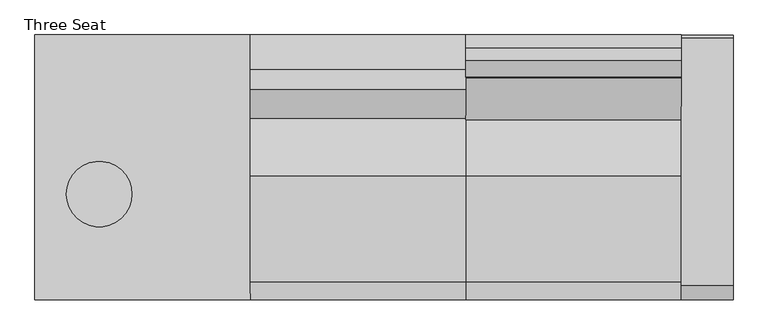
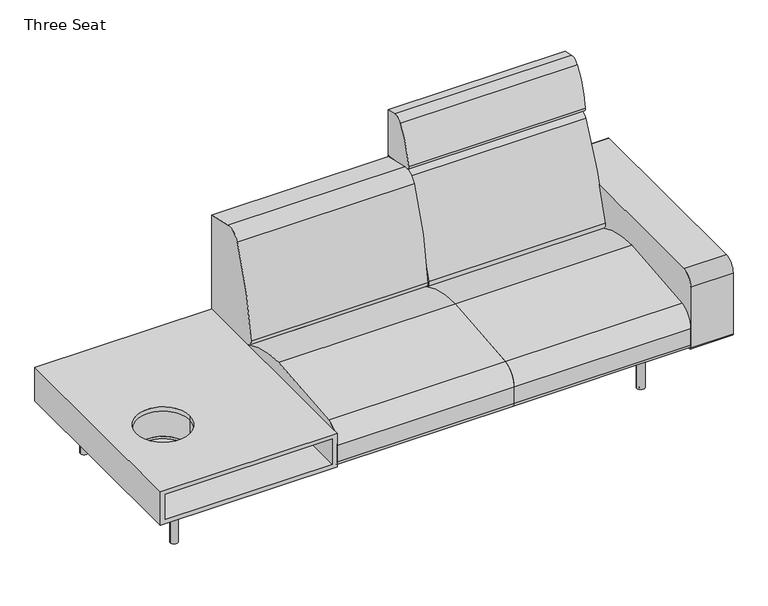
"""IFC4 building model written with IfcOpenShell, lengths in millimetres: furniture geometry, Coalesse_AM_Seating_LoungeChair_Sistema_LegBase_ThreeSeat : Three Seat."""

from ifc_helpers import new_model, si_unit, point, frame, frame_2d, origin, origin_with_axes, place, context, project, spatial, polyline, circle_curve, trimmed, segment, composite_curve, outline, extrude, source, transform, mapped, element, save
from ifc_brep_helpers import plane_surface, revolved_surface, advanced_brep


def three_seat_159c2a03(model_context):
    return source(origin(), model_context, "Body", "SolidModel", [
        advanced_brep(
        [(-353.0071698, -461.2704381, 336.5211742), (-353.0071698, -461.2704381, 223.173587), (-353.0071698, 459.4795619, 223.173587), (-353.0071698, 459.4795619, 336.5211742), (353.6069667, -461.2704381, 336.5211742), (353.6069667, 459.4795619, 336.5211742), (-37.7047777, -93.7879891, 336.5211742), (-265.0667966, -93.7879891, 336.5211742), (374.4965227, -461.2704381, 354.7774), (-374.8034773, -461.2704381, 354.7774), (-374.8034773, -461.2704381, 204.47), (374.4965227, -461.2704381, 204.47), (353.6069667, -461.2704381, 223.173587), (374.4965227, 459.4795619, 354.7774), (374.4965227, 459.4795619, 204.47), (-374.8034773, 459.4795619, 204.47), (-374.8034773, 459.4795619, 354.7774), (353.6069667, 459.4795619, 223.173587), (-265.0667966, -93.7879891, 354.7774), (-37.7047777, -93.7879891, 354.7774), (-265.0667966, -93.7879891, 223.173587), (-37.7047777, -93.7879891, 223.173587), (-265.0667966, -93.7879891, 212.4123377), (-37.7047777, -93.7879891, 212.4123377)],
        [
            (0, 1),
            (1, 2),
            (2, 3),
            (3, 0),
            (4, 0),
            (3, 5),
            (5, 4),
            (6, 7, circle_curve(frame((-151.3857872, -93.7879891, 336.5211742), z_axis=(0.0, 0.0, 1.0), x_axis=(1.0, 0.0, 0.0)), 113.6810095)),
            (7, 6, circle_curve(frame((-151.3857872, -93.7879891, 336.5211742), z_axis=(0.0, 0.0, 1.0), x_axis=(1.0, 0.0, 0.0)), 113.6810095)),
            (8, 9),
            (9, 10),
            (10, 11),
            (11, 8),
            (4, 12),
            (12, 1),
            (13, 14),
            (14, 15),
            (15, 16),
            (16, 13),
            (2, 17),
            (17, 5),
            (8, 13),
            (16, 9),
            (18, 19, circle_curve(frame((-151.3857872, -93.7879891, 354.7774), z_axis=(0.0, 0.0, -1.0), x_axis=(1.0, 0.0, 0.0)), 113.6810095)),
            (19, 18, circle_curve(frame((-151.3857872, -93.7879891, 354.7774), z_axis=(0.0, 0.0, -1.0), x_axis=(1.0, 0.0, 0.0)), 113.6810095)),
            (15, 10),
            (14, 11),
            (17, 12),
            (20, 21, circle_curve(frame((-151.3857872, -93.7879891, 223.173587), z_axis=(0.0, 0.0, -1.0), x_axis=(1.0, 0.0, 0.0)), 113.6810095)),
            (21, 20, circle_curve(frame((-151.3857872, -93.7879891, 223.173587), z_axis=(0.0, 0.0, -1.0), x_axis=(1.0, 0.0, 0.0)), 113.6810095)),
            (22, 23, circle_curve(frame((-151.3857872, -93.7879891, 212.4123377), z_axis=(0.0, 0.0, 1.0), x_axis=(1.0, 0.0, 0.0)), 113.6810095)),
            (23, 22, circle_curve(frame((-151.3857872, -93.7879891, 212.4123377), z_axis=(0.0, 0.0, 1.0), x_axis=(1.0, 0.0, 0.0)), 113.6810095)),
            (23, 21),
            (20, 22),
            (18, 7),
            (6, 19),
        ],
        [
            plane_surface(frame((-353.0071698, -461.2704381, 223.173587), z_axis=(1.0, 0.0, 0.0), x_axis=(0.0, 1.0, 0.0))),
            plane_surface(frame((-353.0071698, -461.2704381, 336.5211742), z_axis=(0.0, 0.0, -1.0), x_axis=(0.0, 1.0, 0.0))),
            plane_surface(frame((-371.2653576, -461.2704381, 354.7774), z_axis=(0.0, -1.0, 0.0), x_axis=(-1.0, 0.0, 0.0))),
            plane_surface(frame((-371.2653576, 459.4795619, 354.7774), z_axis=(0.0, 1.0, 0.0), x_axis=(1.0, 0.0, 0.0))),
            plane_surface(frame((374.4965227, -461.2704381, 354.7774), z_axis=(0.0, 0.0, 1.0), x_axis=(0.0, 1.0, 0.0))),
            plane_surface(frame((-374.8034773, -461.2704381, 354.7774), z_axis=(-1.0, 0.0, 0.0), x_axis=(0.0, 1.0, 0.0))),
            plane_surface(frame((-374.8034773, -461.2704381, 204.47), z_axis=(0.0, 0.0, -1.0), x_axis=(0.0, 1.0, 0.0))),
            plane_surface(frame((374.4965227, -461.2704381, 204.47), z_axis=(1.0, 0.0, 0.0), x_axis=(0.0, 1.0, 0.0))),
            plane_surface(frame((353.6069667, -461.2704381, 336.5211742), z_axis=(-1.0, 0.0, 0.0), x_axis=(0.0, 1.0, 0.0))),
            plane_surface(frame((353.6069667, -461.2704381, 223.173587), z_axis=(0.0, 0.0, 1.0), x_axis=(0.0, 1.0, 0.0))),
            plane_surface(frame((-37.7047777, -93.7879891, 212.4123377), z_axis=(0.0, 0.0, 1.0), x_axis=(0.0, -1.0, 0.0))),
            revolved_surface(polyline([(-37.70477770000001, -93.7879891, 212.4123377), (-37.70477770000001, -93.7879891, 223.173587)]), (-151.3857872, -93.7879891, 446.6108932), (0.0, 0.0, -1.0)),
            revolved_surface(polyline([(-37.70477770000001, -93.7879891, 336.5211742), (-37.70477770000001, -93.7879891, 354.7774)]), (-151.3857872, -93.7879891, 446.6108932), (0.0, 0.0, -1.0)),
        ],
        [
            (0, [[1, 2, 3, 4]]),
            (1, [[5, -4, 6, 7], [8, 9]]),
            (2, [[10, 11, 12, 13], [14, 15, -1, -5]]),
            (3, [[16, 17, 18, 19], [-6, -3, 20, 21]]),
            (4, [[-10, 22, -19, 23], [24, 25]]),
            (5, [[-11, -23, -18, 26]]),
            (6, [[-12, -26, -17, 27]]),
            (7, [[-13, -27, -16, -22]]),
            (8, [[-14, -7, -21, 28]]),
            (9, [[-15, -28, -20, -2], [29, 30]]),
            (10, [[31, 32]]),
            (11, [[-32, 33, -29, 34]]),
            (12, [[35, -8, 36, -24]]),
            (12, [[-35, -25, -36, -9]]),
            (11, [[-31, -34, -30, -33]]),
        ],
    ),
        extrude(outline(composite_curve([segment(trimmed(circle_curve(frame_2d((-151.3857872, -93.7879891)), 127.924967), [point((-279.3107542, -93.7879891))], [point((-23.4608201, -93.7879891))], False, "CARTESIAN"), True, "CONTINUOUS"), segment(trimmed(circle_curve(frame_2d((-151.3857872, -93.7879891)), 127.924967), [point((-23.4608201, -93.7879891))], [point((-279.3107542, -93.7879891))], False, "CARTESIAN"), True, "CONTINUOUS")], self_intersect=False), holes=[composite_curve([segment(trimmed(circle_curve(frame_2d((-151.3857872, -93.7879891)), 113.6810095), [point((-265.0667966, -93.7879891))], [point((-37.7047777, -93.7879891))], True, "CARTESIAN"), True, "CONTINUOUS"), segment(trimmed(circle_curve(frame_2d((-151.3857872, -93.7879891)), 113.6810095), [point((-37.7047777, -93.7879891))], [point((-265.0667966, -93.7879891))], True, "CARTESIAN"), True, "CONTINUOUS")], self_intersect=False)]), frame((0.0, 0.0, 212.4123377), z_axis=(0.0, 0.0, 1.0), x_axis=(1.0, 0.0, 0.0)), (0.0, 0.0, 1.0), 124.1087275),
        extrude(outline(composite_curve([segment(polyline([(459.4795619, 775.8234697), (459.4795619, 228.1929806)]), True, "CONTINUOUS"), segment(trimmed(circle_curve(frame_2d((191.495971, 228.1929806)), 267.983591), [point((459.4795619, 228.1929806))], [point((458.9860775, 211.937276))], False, "CARTESIAN"), True, "CONTINUOUS"), segment(polyline([(458.9860775, 211.937276), (183.8457951, 360.6719742)]), True, "CONTINUOUS"), segment(trimmed(circle_curve(frame_2d((195.9245701, 383.0161724)), 25.4), [point((183.8457951, 360.6719742))], [point((170.6161698, 385.1713698))], False, "CARTESIAN"), True, "CONTINUOUS"), segment(trimmed(circle_curve(frame_2d((1327.5544182, 286.6495247)), 1161.1256023), [point((170.6161698, 385.1713698))], [point((271.1088001, 768.4537592))], False, "CARTESIAN"), True, "CONTINUOUS"), segment(trimmed(circle_curve(frame_2d((326.5730192, 743.158661)), 60.96), [point((271.1088001, 768.4537592))], [point((339.9143278, 802.6408523))], False, "CARTESIAN"), True, "CONTINUOUS"), segment(polyline([(339.9143278, 802.6408523), (459.4795619, 775.8234697)]), True, "CONTINUOUS")], self_intersect=False)), frame((374.4965227, 0.0, 0.0), z_axis=(1.0, 0.0, 0.0), x_axis=(0.0, 1.0, 0.0)), (0.0, 0.0, 1.0), 749.3),
        extrude(outline(composite_curve([segment(trimmed(circle_curve(frame_2d((-438.9184381, 226.822)), 22.352), [point((-438.9184381, 204.47))], [point((-461.2704381, 226.822))], False, "CARTESIAN"), True, "CONTINUOUS"), segment(polyline([(-461.2704381, 226.822), (-461.2704381, 301.4421993)]), True, "CONTINUOUS"), segment(trimmed(circle_curve(frame_2d((-385.0704381, 301.4421993)), 76.2), [point((-461.2704381, 301.4421993))], [point((-398.9277015, 376.3716077))], False, "CARTESIAN"), True, "CONTINUOUS"), segment(trimmed(circle_curve(frame_2d((2.2103559, -1792.6740646)), 2205.8265729), [point((-398.9277015, 376.3716077))], [point((-31.1968175, 412.8995185))], False, "CARTESIAN"), True, "CONTINUOUS"), segment(trimmed(circle_curve(frame_2d((-24.5128424, -28.3829182)), 441.333054), [point((-31.1968175, 412.8995185))], [point((184.5757008, 360.2774035))], False, "CARTESIAN"), True, "CONTINUOUS"), segment(polyline([(184.5757008, 360.2774035), (458.9860775, 211.937276)]), True, "CONTINUOUS"), segment(trimmed(circle_curve(frame_2d((442.3266309, 226.7871991)), 22.3171991), [point((458.9860775, 211.937276))], [point((442.3266309, 204.47))], False, "CARTESIAN"), True, "CONTINUOUS"), segment(polyline([(442.3266309, 204.47), (-438.9184381, 204.47)]), True, "CONTINUOUS")], self_intersect=False)), frame((374.4965227, 0.0, 0.0), z_axis=(1.0, 0.0, 0.0), x_axis=(0.0, 1.0, 0.0)), (0.0, 0.0, 1.0), 749.3),
        extrude(outline(composite_curve([segment(polyline([(-461.2704381, 212.4103341), (-461.2704381, 487.0244726)]), True, "CONTINUOUS"), segment(trimmed(circle_curve(frame_2d((-410.4704381, 487.0244726)), 50.8), [point((-461.2704381, 487.0244726))], [point((-410.4704381, 537.8244726))], False, "CARTESIAN"), True, "CONTINUOUS"), segment(polyline([(-410.4704381, 537.8244726), (450.1139321, 537.8244726)]), True, "CONTINUOUS"), segment(trimmed(circle_curve(frame_2d((450.1139321, 530.2044726)), 7.62), [point((450.1139321, 537.8244726))], [point((457.7339321, 530.2044726))], False, "CARTESIAN"), True, "CONTINUOUS"), segment(polyline([(457.7339321, 530.2044726), (457.7339321, 217.4903341)]), True, "CONTINUOUS"), segment(trimmed(circle_curve(frame_2d((445.0339321, 217.4903341)), 12.7), [point((457.7339321, 217.4903341))], [point((445.0339321, 204.7903341))], False, "CARTESIAN"), True, "CONTINUOUS"), segment(polyline([(445.0339321, 204.7903341), (-453.6504381, 204.7903341)]), True, "CONTINUOUS"), segment(trimmed(circle_curve(frame_2d((-453.6504381, 212.4103341)), 7.62), [point((-453.6504381, 204.7903341))], [point((-461.2704381, 212.4103341))], False, "CARTESIAN"), True, "CONTINUOUS")], self_intersect=False)), frame((1873.0965227, 0.0, 0.0), z_axis=(1.0, 0.0, 0.0), x_axis=(0.0, 1.0, 0.0)), (0.0, 0.0, 1.0), 179.5663651),
        extrude(outline(composite_curve([segment(polyline([(459.4795619, 985.4592709), (459.4795619, 780.845009), (327.9700683, 799.327463)]), True, "CONTINUOUS"), segment(trimmed(circle_curve(frame_2d((330.6213159, 818.1920697)), 19.05), [point((327.9700683, 799.327463))], [point((311.7521971, 820.8110119))], False, "CARTESIAN"), True, "CONTINUOUS"), segment(trimmed(circle_curve(frame_2d((679.5815991, 769.7580741)), 371.3554516), [point((311.7521971, 820.8110119))], [point((372.1246101, 978.0249014))], False, "CARTESIAN"), True, "CONTINUOUS"), segment(trimmed(circle_curve(frame_2d((405.8944569, 955.1497055)), 40.7881985), [point((372.1246101, 978.0249014))], [point((414.3748002, 995.046584))], False, "CARTESIAN"), True, "CONTINUOUS"), segment(polyline([(414.3748002, 995.046584), (459.4795619, 985.4592709)]), True, "CONTINUOUS")], self_intersect=False)), frame((1123.7965227, 0.0, 0.0), z_axis=(1.0, 0.0, 0.0), x_axis=(0.0, 1.0, 0.0)), (0.0, 0.0, 1.0), 749.3),
        extrude(outline(composite_curve([segment(polyline([(459.4795619, 780.845009), (459.4795619, 228.1929806)]), True, "CONTINUOUS"), segment(trimmed(circle_curve(frame_2d((191.495971, 228.1929806)), 267.983591), [point((459.4795619, 228.1929806))], [point((458.9860775, 211.937276))], False, "CARTESIAN"), True, "CONTINUOUS"), segment(polyline([(458.9860775, 211.937276), (177.4990556, 364.1028799)]), True, "CONTINUOUS"), segment(trimmed(circle_curve(frame_2d((189.5778307, 386.4470781)), 25.4), [point((177.4990556, 364.1028799))], [point((164.9600055, 392.7018911))], False, "CARTESIAN"), True, "CONTINUOUS"), segment(trimmed(circle_curve(frame_2d((1918.112812, -52.7331923)), 1808.8552115), [point((164.9600055, 392.7018911))], [point((310.2880264, 776.0349508))], False, "CARTESIAN"), True, "CONTINUOUS"), segment(trimmed(circle_curve(frame_2d((344.1537133, 758.5785695)), 38.1), [point((310.2880264, 776.0349508))], [point((349.4562085, 796.3077829))], False, "CARTESIAN"), True, "CONTINUOUS"), segment(polyline([(349.4562085, 796.3077829), (459.4795619, 780.845009)]), True, "CONTINUOUS")], self_intersect=False)), frame((1123.7965227, 0.0, 0.0), z_axis=(1.0, 0.0, 0.0), x_axis=(0.0, 1.0, 0.0)), (0.0, 0.0, 1.0), 749.3),
        extrude(outline(composite_curve([segment(trimmed(circle_curve(frame_2d((-438.9184381, 226.822)), 22.352), [point((-438.9184381, 204.47))], [point((-461.2704381, 226.822))], False, "CARTESIAN"), True, "CONTINUOUS"), segment(polyline([(-461.2704381, 226.822), (-461.2704381, 301.4421993)]), True, "CONTINUOUS"), segment(trimmed(circle_curve(frame_2d((-385.0704381, 301.4421993)), 76.2), [point((-461.2704381, 301.4421993))], [point((-398.9277015, 376.3716077))], False, "CARTESIAN"), True, "CONTINUOUS"), segment(trimmed(circle_curve(frame_2d((2.2103559, -1792.6740646)), 2205.8265729), [point((-398.9277015, 376.3716077))], [point((-31.1968175, 412.8995185))], False, "CARTESIAN"), True, "CONTINUOUS"), segment(trimmed(circle_curve(frame_2d((-24.5128424, -28.3829182)), 441.333054), [point((-31.1968175, 412.8995185))], [point((184.5757008, 360.2774035))], False, "CARTESIAN"), True, "CONTINUOUS"), segment(polyline([(184.5757008, 360.2774035), (458.9860775, 211.937276)]), True, "CONTINUOUS"), segment(trimmed(circle_curve(frame_2d((442.3266309, 226.7871991)), 22.3171991), [point((458.9860775, 211.937276))], [point((442.3266309, 204.47))], False, "CARTESIAN"), True, "CONTINUOUS"), segment(polyline([(442.3266309, 204.47), (-438.9184381, 204.47)]), True, "CONTINUOUS")], self_intersect=False)), frame((1123.7965227, 0.0, 0.0), z_axis=(1.0, 0.0, 0.0), x_axis=(0.0, 1.0, 0.0)), (0.0, 0.0, 1.0), 749.3),
        extrude(outline(composite_curve([segment(trimmed(circle_curve(frame_2d((1738.4765227, 335.9943389)), 6.096), [point((1744.5725227, 335.9943389))], [point((1732.3805227, 335.9943389))], False, "CARTESIAN"), True, "CONTINUOUS"), segment(trimmed(circle_curve(frame_2d((1738.4765227, 335.9943389)), 6.096), [point((1732.3805227, 335.9943389))], [point((1744.5725227, 335.9943389))], False, "CARTESIAN"), True, "CONTINUOUS")], self_intersect=False)), origin_with_axes(), (0.0, 0.0, 1.0), 4.3662291),
        extrude(outline(composite_curve([segment(trimmed(circle_curve(frame_2d((1738.4765227, -327.2630889)), 6.096), [point((1744.5725227, -327.2630889))], [point((1732.3805227, -327.2630889))], False, "CARTESIAN"), True, "CONTINUOUS"), segment(trimmed(circle_curve(frame_2d((1738.4765227, -327.2630889)), 6.096), [point((1732.3805227, -327.2630889))], [point((1744.5725227, -327.2630889))], False, "CARTESIAN"), True, "CONTINUOUS")], self_intersect=False)), origin_with_axes(), (0.0, 0.0, 1.0), 4.3662291),
        extrude(outline(composite_curve([segment(polyline([(157.0399209, 1751.056375), (201.7356243, 1751.056375)]), True, "CONTINUOUS"), segment(trimmed(circle_curve(frame_2d((201.7356243, 1748.008375)), 3.048), [point((201.7356243, 1751.056375))], [point((204.7836243, 1748.008375))], False, "CARTESIAN"), True, "CONTINUOUS"), segment(polyline([(204.7836243, 1748.008375), (204.7836243, 1728.666199)]), True, "CONTINUOUS"), segment(trimmed(circle_curve(frame_2d((201.7356243, 1728.666199)), 3.048), [point((204.7836243, 1728.666199))], [point((201.7356243, 1725.618199))], False, "CARTESIAN"), True, "CONTINUOUS"), segment(polyline([(201.7356243, 1725.618199), (157.1249936, 1725.618199)]), True, "CONTINUOUS"), segment(trimmed(circle_curve(frame_2d((157.1249936, 1728.7512718)), 3.1330728), [point((157.1249936, 1725.618199))], [point((153.9919209, 1728.7512718))], False, "CARTESIAN"), True, "CONTINUOUS"), segment(polyline([(153.9919209, 1728.7512718), (153.9919209, 1748.008375)]), True, "CONTINUOUS"), segment(trimmed(circle_curve(frame_2d((157.0399209, 1748.008375)), 3.048), [point((153.9919209, 1748.008375))], [point((157.0399209, 1751.056375))], False, "CARTESIAN"), True, "CONTINUOUS")], self_intersect=False)), frame((0.0, 222.3519802, 0.0), z_axis=(0.0, 1.0, 0.0), x_axis=(0.0, 0.0, 1.0)), (0.0, 0.0, 1.0), 92.6273161),
        extrude(outline(composite_curve([segment(polyline([(157.0399209, 1751.056375), (201.7356243, 1751.056375)]), True, "CONTINUOUS"), segment(trimmed(circle_curve(frame_2d((201.7356243, 1748.008375)), 3.048), [point((201.7356243, 1751.056375))], [point((204.7836243, 1748.008375))], False, "CARTESIAN"), True, "CONTINUOUS"), segment(polyline([(204.7836243, 1748.008375), (204.7836243, 1728.666199)]), True, "CONTINUOUS"), segment(trimmed(circle_curve(frame_2d((201.7356243, 1728.666199)), 3.048), [point((204.7836243, 1728.666199))], [point((201.7356243, 1725.618199))], False, "CARTESIAN"), True, "CONTINUOUS"), segment(polyline([(201.7356243, 1725.618199), (157.1249936, 1725.618199)]), True, "CONTINUOUS"), segment(trimmed(circle_curve(frame_2d((157.1249936, 1728.7512718)), 3.1330728), [point((157.1249936, 1725.618199))], [point((153.9919209, 1728.7512718))], False, "CARTESIAN"), True, "CONTINUOUS"), segment(polyline([(153.9919209, 1728.7512718), (153.9919209, 1748.008375)]), True, "CONTINUOUS"), segment(trimmed(circle_curve(frame_2d((157.0399209, 1748.008375)), 3.048), [point((153.9919209, 1748.008375))], [point((157.0399209, 1751.056375))], False, "CARTESIAN"), True, "CONTINUOUS")], self_intersect=False)), frame((0.0, -314.9792963, 0.0), z_axis=(0.0, 1.0, 0.0), x_axis=(0.0, 0.0, 1.0)), (0.0, 0.0, 1.0), 92.6273161),
        extrude(outline(composite_curve([segment(trimmed(circle_curve(frame_2d((176.3356606, 1715.8259944)), 3.048), [point((179.3836606, 1715.8259944))], [point((176.3356606, 1712.7779944))], False, "CARTESIAN"), True, "CONTINUOUS"), segment(polyline([(176.3356606, 1712.7779944), (157.0399209, 1712.7779944)]), True, "CONTINUOUS"), segment(trimmed(circle_curve(frame_2d((157.0399209, 1715.8259944)), 3.048), [point((157.0399209, 1712.7779944))], [point((153.9919209, 1715.8259944))], False, "CARTESIAN"), True, "CONTINUOUS"), segment(polyline([(153.9919209, 1715.8259944), (153.9919209, 1760.5135501)]), True, "CONTINUOUS"), segment(trimmed(circle_curve(frame_2d((157.056462, 1760.5135501)), 3.0645412), [point((153.9919209, 1760.5135501))], [point((157.056462, 1763.5780913))], False, "CARTESIAN"), True, "CONTINUOUS"), segment(polyline([(157.056462, 1763.5780913), (176.3356606, 1763.5780913)]), True, "CONTINUOUS"), segment(trimmed(circle_curve(frame_2d((176.3356606, 1760.5300913)), 3.048), [point((176.3356606, 1763.5780913))], [point((179.3836606, 1760.5300913))], False, "CARTESIAN"), True, "CONTINUOUS"), segment(polyline([(179.3836606, 1760.5300913), (179.3836606, 1715.8259944)]), True, "CONTINUOUS")], self_intersect=False)), frame((0.0, -222.3519802, 0.0), z_axis=(0.0, 1.0, 0.0), x_axis=(0.0, 0.0, 1.0)), (0.0, 0.0, 1.0), 444.7039604),
        extrude(outline(composite_curve([segment(trimmed(circle_curve(frame_2d((1738.4765227, 332.3095741)), 16.51), [point((1754.9865227, 332.3095741))], [point((1721.9665227, 332.3095741))], False, "CARTESIAN"), True, "CONTINUOUS"), segment(trimmed(circle_curve(frame_2d((1738.4765227, 332.3095741)), 16.51), [point((1721.9665227, 332.3095741))], [point((1754.9865227, 332.3095741))], False, "CARTESIAN"), True, "CONTINUOUS")], self_intersect=False)), frame((0.0, 0.0, 4.3662291), z_axis=(0.0, 0.0, 1.0), x_axis=(1.0, 0.0, 0.0)), (0.0, 0.0, 1.0), 200.1037709),
        extrude(outline(composite_curve([segment(trimmed(circle_curve(frame_2d((1738.0796477, -327.5470741)), 16.51), [point((1754.5896477, -327.5470741))], [point((1721.5696477, -327.5470741))], False, "CARTESIAN"), True, "CONTINUOUS"), segment(trimmed(circle_curve(frame_2d((1738.0796477, -327.5470741)), 16.51), [point((1721.5696477, -327.5470741))], [point((1754.5896477, -327.5470741))], False, "CARTESIAN"), True, "CONTINUOUS")], self_intersect=False)), frame((0.0, 0.0, 4.3662291), z_axis=(0.0, 0.0, 1.0), x_axis=(1.0, 0.0, 0.0)), (0.0, 0.0, 1.0), 200.1037709),
        extrude(outline(composite_curve([segment(trimmed(circle_curve(frame_2d((-240.1834773, 335.9943389)), 6.096), [point((-246.2794773, 335.9943389))], [point((-234.0874773, 335.9943389))], False, "CARTESIAN"), True, "CONTINUOUS"), segment(trimmed(circle_curve(frame_2d((-240.1834773, 335.9943389)), 6.096), [point((-234.0874773, 335.9943389))], [point((-246.2794773, 335.9943389))], False, "CARTESIAN"), True, "CONTINUOUS")], self_intersect=False)), origin_with_axes(), (0.0, 0.0, 1.0), 4.3662291),
        extrude(outline(composite_curve([segment(trimmed(circle_curve(frame_2d((-240.1834773, -327.2630889)), 6.096), [point((-246.2794773, -327.2630889))], [point((-234.0874773, -327.2630889))], False, "CARTESIAN"), True, "CONTINUOUS"), segment(trimmed(circle_curve(frame_2d((-240.1834773, -327.2630889)), 6.096), [point((-234.0874773, -327.2630889))], [point((-246.2794773, -327.2630889))], False, "CARTESIAN"), True, "CONTINUOUS")], self_intersect=False)), origin_with_axes(), (0.0, 0.0, 1.0), 4.3662291),
        extrude(outline(composite_curve([segment(trimmed(circle_curve(frame_2d((157.0399209, -249.7153296)), 3.048), [point((157.0399209, -252.7633296))], [point((153.9919209, -249.7153296))], False, "CARTESIAN"), True, "CONTINUOUS"), segment(polyline([(153.9919209, -249.7153296), (153.9919209, -230.4582264)]), True, "CONTINUOUS"), segment(trimmed(circle_curve(frame_2d((157.1249936, -230.4582264)), 3.1330728), [point((153.9919209, -230.4582264))], [point((157.1249936, -227.3251537))], False, "CARTESIAN"), True, "CONTINUOUS"), segment(polyline([(157.1249936, -227.3251537), (201.7356243, -227.3251537)]), True, "CONTINUOUS"), segment(trimmed(circle_curve(frame_2d((201.7356243, -230.3731537)), 3.048), [point((201.7356243, -227.3251537))], [point((204.7836243, -230.3731537))], False, "CARTESIAN"), True, "CONTINUOUS"), segment(polyline([(204.7836243, -230.3731537), (204.7836243, -249.7153296)]), True, "CONTINUOUS"), segment(trimmed(circle_curve(frame_2d((201.7356243, -249.7153296)), 3.048), [point((204.7836243, -249.7153296))], [point((201.7356243, -252.7633296))], False, "CARTESIAN"), True, "CONTINUOUS"), segment(polyline([(201.7356243, -252.7633296), (157.0399209, -252.7633296)]), True, "CONTINUOUS")], self_intersect=False)), frame((0.0, 222.3519802, 0.0), z_axis=(0.0, 1.0, 0.0), x_axis=(0.0, 0.0, 1.0)), (0.0, 0.0, 1.0), 92.6273161),
        extrude(outline(composite_curve([segment(trimmed(circle_curve(frame_2d((157.0399209, -249.7153296)), 3.048), [point((157.0399209, -252.7633296))], [point((153.9919209, -249.7153296))], False, "CARTESIAN"), True, "CONTINUOUS"), segment(polyline([(153.9919209, -249.7153296), (153.9919209, -230.4582264)]), True, "CONTINUOUS"), segment(trimmed(circle_curve(frame_2d((157.1249936, -230.4582264)), 3.1330728), [point((153.9919209, -230.4582264))], [point((157.1249936, -227.3251537))], False, "CARTESIAN"), True, "CONTINUOUS"), segment(polyline([(157.1249936, -227.3251537), (201.7356243, -227.3251537)]), True, "CONTINUOUS"), segment(trimmed(circle_curve(frame_2d((201.7356243, -230.3731537)), 3.048), [point((201.7356243, -227.3251537))], [point((204.7836243, -230.3731537))], False, "CARTESIAN"), True, "CONTINUOUS"), segment(polyline([(204.7836243, -230.3731537), (204.7836243, -249.7153296)]), True, "CONTINUOUS"), segment(trimmed(circle_curve(frame_2d((201.7356243, -249.7153296)), 3.048), [point((204.7836243, -249.7153296))], [point((201.7356243, -252.7633296))], False, "CARTESIAN"), True, "CONTINUOUS"), segment(polyline([(201.7356243, -252.7633296), (157.0399209, -252.7633296)]), True, "CONTINUOUS")], self_intersect=False)), frame((0.0, -314.9792963, 0.0), z_axis=(0.0, 1.0, 0.0), x_axis=(0.0, 0.0, 1.0)), (0.0, 0.0, 1.0), 92.6273161),
        extrude(outline(composite_curve([segment(polyline([(179.3836606, -217.532949), (179.3836606, -262.2370459)]), True, "CONTINUOUS"), segment(trimmed(circle_curve(frame_2d((176.3356606, -262.2370459)), 3.048), [point((179.3836606, -262.2370459))], [point((176.3356606, -265.2850459))], False, "CARTESIAN"), True, "CONTINUOUS"), segment(polyline([(176.3356606, -265.2850459), (157.056462, -265.2850459)]), True, "CONTINUOUS"), segment(trimmed(circle_curve(frame_2d((157.056462, -262.2205047)), 3.0645412), [point((157.056462, -265.2850459))], [point((153.9919209, -262.2205047))], False, "CARTESIAN"), True, "CONTINUOUS"), segment(polyline([(153.9919209, -262.2205047), (153.9919209, -217.532949)]), True, "CONTINUOUS"), segment(trimmed(circle_curve(frame_2d((157.0399209, -217.532949)), 3.048), [point((153.9919209, -217.532949))], [point((157.0399209, -214.484949))], False, "CARTESIAN"), True, "CONTINUOUS"), segment(polyline([(157.0399209, -214.484949), (176.3356606, -214.484949)]), True, "CONTINUOUS"), segment(trimmed(circle_curve(frame_2d((176.3356606, -217.532949)), 3.048), [point((176.3356606, -214.484949))], [point((179.3836606, -217.532949))], False, "CARTESIAN"), True, "CONTINUOUS")], self_intersect=False)), frame((0.0, -222.3519802, 0.0), z_axis=(0.0, 1.0, 0.0), x_axis=(0.0, 0.0, 1.0)), (0.0, 0.0, 1.0), 444.7039604),
        extrude(outline(composite_curve([segment(trimmed(circle_curve(frame_2d((-240.1834773, 332.3095741)), 16.51), [point((-256.6934773, 332.3095741))], [point((-223.6734773, 332.3095741))], False, "CARTESIAN"), True, "CONTINUOUS"), segment(trimmed(circle_curve(frame_2d((-240.1834773, 332.3095741)), 16.51), [point((-223.6734773, 332.3095741))], [point((-256.6934773, 332.3095741))], False, "CARTESIAN"), True, "CONTINUOUS")], self_intersect=False)), frame((0.0, 0.0, 4.3662291), z_axis=(0.0, 0.0, 1.0), x_axis=(1.0, 0.0, 0.0)), (0.0, 0.0, 1.0), 200.1037709),
        extrude(outline(composite_curve([segment(trimmed(circle_curve(frame_2d((-239.7866023, -327.5470741)), 16.51), [point((-256.2966023, -327.5470741))], [point((-223.2766023, -327.5470741))], False, "CARTESIAN"), True, "CONTINUOUS"), segment(trimmed(circle_curve(frame_2d((-239.7866023, -327.5470741)), 16.51), [point((-223.2766023, -327.5470741))], [point((-256.2966023, -327.5470741))], False, "CARTESIAN"), True, "CONTINUOUS")], self_intersect=False)), frame((0.0, 0.0, 4.3662291), z_axis=(0.0, 0.0, 1.0), x_axis=(1.0, 0.0, 0.0)), (0.0, 0.0, 1.0), 200.1037709),
    ])


if __name__ == "__main__":
    model = new_model("IFC4")
    model_context = context("Model", 3, world=origin())
    ifc_project = project(units=[si_unit("LENGTHUNIT", "METRE", prefix="MILLI")], contexts=[model_context])
    site = spatial("IfcSite", under=ifc_project)
    building = spatial("IfcBuilding", under=site)
    placement = place(None, origin())
    three_seat_shape = three_seat_159c2a03(model_context)
    element("IfcFurniture", 1, ObjectType="Coalesse_AM_Seating_LoungeChair_Sistema_LegBase_ThreeSeat : Three Seat", at=placement, inside=building, context=model_context, shape_type="MappedRepresentation", body=[
        mapped(three_seat_shape, transform((0.0, 0.0, 0.0), x_axis=(1.0, 0.0, 0.0), y_axis=(0.0, 1.0, 0.0), z_axis=(0.0, 0.0, 1.0))),
    ])
    save(model, "model.ifc")
